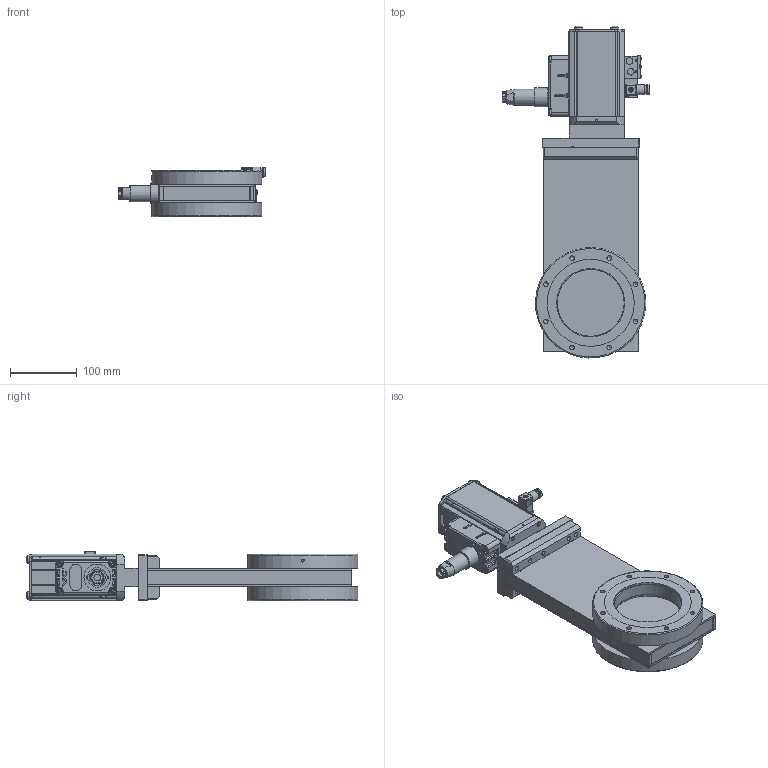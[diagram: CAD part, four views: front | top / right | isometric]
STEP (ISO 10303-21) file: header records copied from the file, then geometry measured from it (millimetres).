
FILE_DESCRIPTION(/* description */ (''),/* implementation_level */ '2;1');
FILE_NAME(/* name */ '1752058264_203.stp',/* time_stamp */ '2021-11-17T07:08:44+01:00',/* author */ (''),/* organization */ (''),/* preprocessor_version */ 'ST-DEVELOPER v16.7',/* originating_system */ 'SIEMENS PLM Software NX 1915',/* authorisation */ '');
FILE_SCHEMA (('AP203_CONFIGURATION_CONTROLLED_3D_DESIGN_OF_MECHANICAL_PARTS_AND_ASSEMBLIES_MIM_LF { 1 0 10303 403 2 1 2}'));
Products named in the file (50): 500156; 800510; 387037; 800510_30716ID; 70986-01.1; N-6240-008.1; N-6195-007.2; 71055-01.1; n-6011-049.1; 70973-01.1; 982213; 467882; 437235; 840726_30417ID; 840726_30635ID; 840731_30634ID; 840731_30633ID; 840738_30631ID; 840727_30629ID; 840727_30627ID; 70988-01.1; n-8504-002; n-6024-548.1; 70987-01.1; N-7557-016_1.1; N-7557-018.1; N-7557-016_2.1; N-6024-524.1; N-5018-005.1; 23549-01.1; 23549-01.1_30573ID; n-6099-454.1; N-6024-571.1; 85948-01.1; 94222-01.1; 73003-01.1; 218198.1; 501138; 348352.1; 918673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
Assembly tree (79 placements, depth 5):
  900117
    94235-R1.2
      73003-01.1  x4
      94222-01.1
      85948-01.1
      N-6024-571.1  x4
    212153.4
      212039.7
        840727_30627ID
        840727_30629ID
        840738_30631ID
        840731_30633ID
        840731_30634ID
        840726_30635ID
        840726_30417ID
      n-6099-454.1  x2
      23549-01.1_30573ID
      23549-01.1
    94800-r1.7_NX-ARRAGMNTKONFIG1
      N-5018-005.1  x2
      N-6024-524.1  x6
      N-7557-016_2.1
      N-7557-018.1
      N-7557-016_1.1
      N-7557-016_3.1_MODELNX-ARRAGMNTArrangement 1
        437235
        467882
        982213
    387044_MODEL
      387035_MODEL
        70973-01.1
        n-6011-049.1  x2
        387036_MODELNX-ARRAGMNTMikroschalter neue Höhe
          800510_30716ID
          387037
          800510
          500156
      73638-r1.1
        71055-01.1  x4
        N-6195-007.2  x4
        N-6240-008.1  x2
        70986-01.1
      70987-01.1
      n-6024-548.1  x4
      n-8504-002
      70988-01.1  x2
    918673
    348352.1
    501138
    218198.1  x6
Bounding box: 221 x 496.29 x 74.53 mm (x, y, z)
Volume: 1803822.9 mm3; surface area: 596551.8 mm2
Topology: 178 solids, 178 shells, 3738 faces, 9557 edges, 6484 vertices
Faces by surface type: plane 2508, cylinder 816, torus 161, cone 146, bspline 42, extrusion 36, sphere 29
Full cylindrical faces by diameter (mm): 0.7 x1, 1 x7, 1.1 x14, 1.5 x11, 1.6 x14, 1.66 x7, 1.97 x4, 2 x30, 2.125 x1, 2.265 x2, 2.46 x2, 2.5 x27, 2.65 x1, 2.8 x2, 3 x15, 3.2 x2, 3.3 x4, 3.4 x6, 3.5 x4, 4 x12, 4.2 x3, 4.22 x1, 4.35 x4, 4.4 x4, 4.45 x4, 4.5 x2, 4.625 x4, 4.75 x8, 5 x7, 5.2 x4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
Entity records: 114077 total; most frequent: CARTESIAN_POINT 33016, ORIENTED_EDGE 14988, DIRECTION 14642, EDGE_CURVE 7494, VERTEX_POINT 5428, AXIS2_PLACEMENT_3D 4920, VECTOR 4802, LINE 4766
